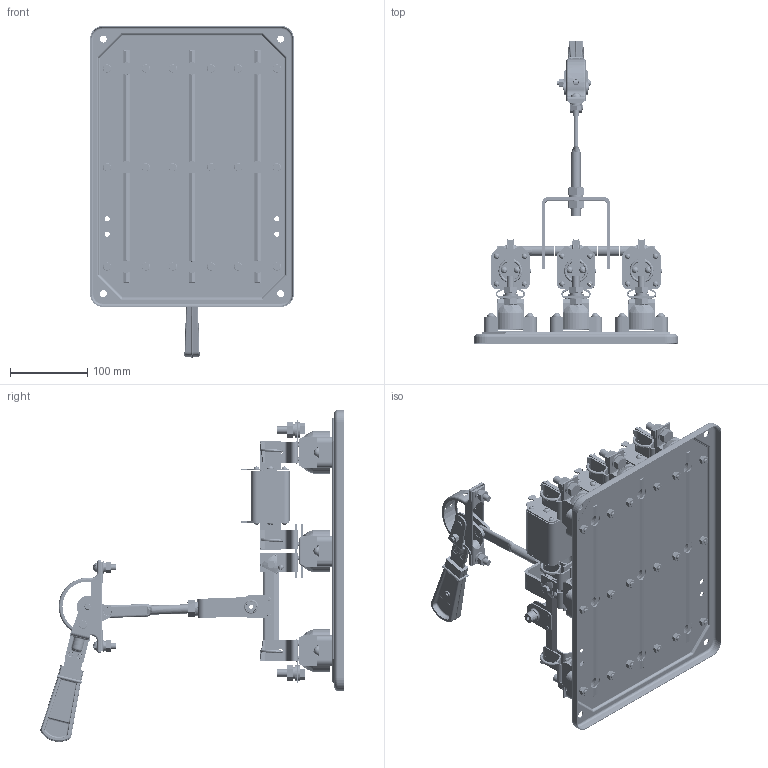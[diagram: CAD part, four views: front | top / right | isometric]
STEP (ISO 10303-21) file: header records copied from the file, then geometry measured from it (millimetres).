
FILE_DESCRIPTION (( 'STEP AP203' ), '1' );
FILE_NAME ('ﾐﾏﾖ - 2.STEP', '2016-11-23T11:34:51', ( 'user' ), ( '' ), 'SwSTEP 2.0', 'SolidWorks 2010', '' );
FILE_SCHEMA (( 'CONFIG_CONTROL_DESIGN' ));
Products named in the file (1): ﾐﾏﾖ - 2
Bounding box: 264 x 393.13 x 430.41 mm (x, y, z)
Surface area: 734353 mm2 (no closed solid volume)
Topology: 0 solids, 384 shells, 3317 faces, 10405 edges, 7307 vertices
Faces by surface type: plane 1675, cylinder 1127, cone 165, sphere 149, torus 125, bspline 76
Entity records: 127550 total; most frequent: CARTESIAN_POINT 35765, DIRECTION 19901, ORIENTED_EDGE 16918, EDGE_CURVE 10367, AXIS2_PLACEMENT_3D 7617, VERTEX_POINT 7304, VECTOR 4667, LINE 4667
